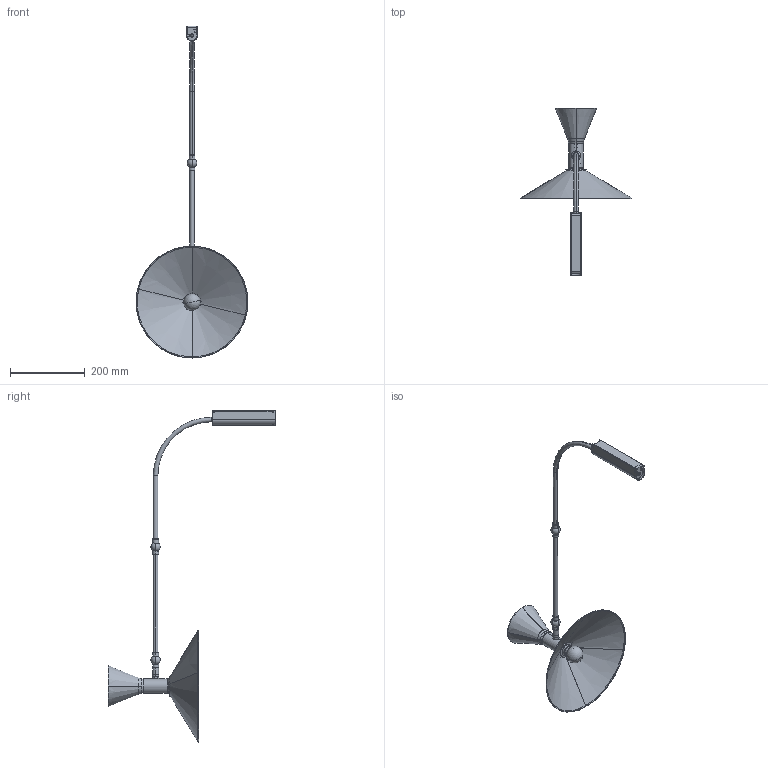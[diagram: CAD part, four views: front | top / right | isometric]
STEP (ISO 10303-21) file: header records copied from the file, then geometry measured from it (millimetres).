
FILE_DESCRIPTION (( 'STEP AP214' ), '1' );
FILE_NAME ('3D_LAMPE_DE_MARSEILLE_MINI.STEP', '2018-03-12T19:28:36', ( 'Utente' ), ( '' ), 'SwSTEP 2.0', 'SolidWorks 2016', '' );
FILE_SCHEMA (( 'AUTOMOTIVE_DESIGN' ));
Length unit declared in the file: millimetre
Products named in the file (5): Group1^3D_LAMPE_DE_MARSEILLE_MINI; 3D_LAMPE_DE_MARSEILLE_MINI; ptl lamp mars miniMARTIMMMMM-1^3D_LAMPE_DE_MARSEILLE_MINI; Group3^3D_LAMPE_DE_MARSEILLE_MINI; Group2^3D_LAMPE_DE_MARSEILLE_MINI
Assembly tree (4 placements, depth 2):
  3D_LAMPE_DE_MARSEILLE_MINI
    Group1^3D_LAMPE_DE_MARSEILLE_MINI
    Group2^3D_LAMPE_DE_MARSEILLE_MINI
    Group3^3D_LAMPE_DE_MARSEILLE_MINI
    ptl lamp mars miniMARTIMMMMM-1^3D_LAMPE_DE_MARSEILLE_MINI
Bounding box: 299.62 x 448.95 x 889.38 mm (x, y, z)
Volume: 493078.7 mm3; surface area: 554596.2 mm2
Topology: 7 solids, 7 shells, 361 faces, 857 edges, 520 vertices
Faces by surface type: cylinder 125, plane 116, torus 50, cone 44, bspline 14, sphere 12
Entity records: 15086 total; most frequent: CARTESIAN_POINT 6319, DIRECTION 1850, ORIENTED_EDGE 1670, EDGE_CURVE 835, AXIS2_PLACEMENT_3D 755, VERTEX_POINT 510, CIRCLE 401, EDGE_LOOP 389
